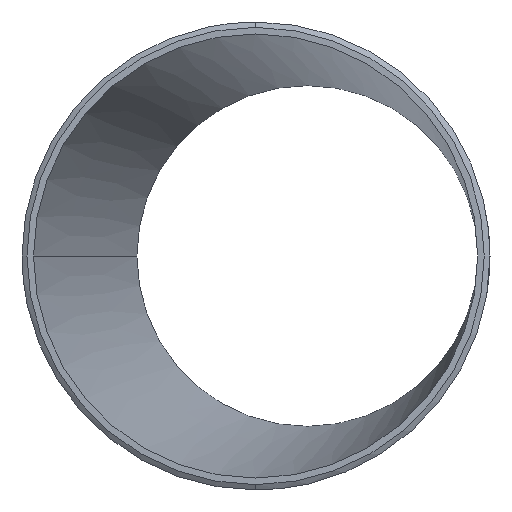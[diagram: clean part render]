
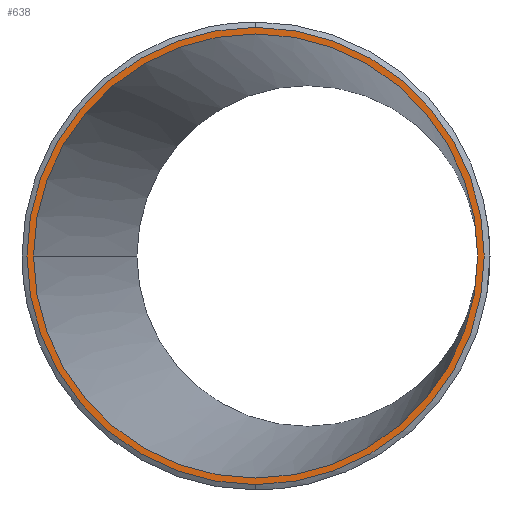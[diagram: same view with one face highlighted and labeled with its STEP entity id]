
A CAD part, left-side view. The second image highlights one B-rep face of the part: STEP entity #638.
In plain terms, the highlighted planar face has unit normal (-1, 0, 0).
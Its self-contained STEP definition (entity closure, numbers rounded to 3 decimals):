
#18 = DIRECTION ( 'NONE',  ( 1., 0., 0. ) ) ;
#38 = DIRECTION ( 'NONE',  ( 0., 0., -1. ) ) ;
#138 = CIRCLE ( 'NONE', #498, 55.75 ) ;
#235 = CARTESIAN_POINT ( 'NONE',  ( 0., 0., -55.75 ) ) ;
#284 = ORIENTED_EDGE ( 'NONE', *, *, #1522, .F. ) ;
#317 = DIRECTION ( 'NONE',  ( 0., 0., -1. ) ) ;
#322 = DIRECTION ( 'NONE',  ( 0., 0., -1. ) ) ;
#347 = DIRECTION ( 'NONE',  ( 1., 0., 0. ) ) ;
#393 = ORIENTED_EDGE ( 'NONE', *, *, #950, .T. ) ;
#498 = AXIS2_PLACEMENT_3D ( 'NONE', #1642, #1152, #1412 ) ;
#523 = EDGE_LOOP ( 'NONE', ( #799, #284 ) ) ;
#563 = VERTEX_POINT ( 'NONE', #1653 ) ;
#608 = DIRECTION ( 'NONE',  ( 0., 0., -1. ) ) ;
#638 = ADVANCED_FACE ( 'NONE', ( #949, #805 ), #1568, .F. ) ;
#652 = ORIENTED_EDGE ( 'NONE', *, *, #660, .T. ) ;
#660 = EDGE_CURVE ( 'NONE', #563, #1015, #814, .T. ) ;
#670 = AXIS2_PLACEMENT_3D ( 'NONE', #1332, #1053, #38 ) ;
#743 = DIRECTION ( 'NONE',  ( 1., 0., 0. ) ) ;
#799 = ORIENTED_EDGE ( 'NONE', *, *, #1251, .F. ) ;
#805 = FACE_OUTER_BOUND ( 'NONE', #523, .T. ) ;
#814 = CIRCLE ( 'NONE', #670, 54.15 ) ;
#908 = VERTEX_POINT ( 'NONE', #235 ) ;
#949 = FACE_BOUND ( 'NONE', #1058, .T. ) ;
#950 = EDGE_CURVE ( 'NONE', #1015, #563, #1330, .T. ) ;
#1015 = VERTEX_POINT ( 'NONE', #1261 ) ;
#1053 = DIRECTION ( 'NONE',  ( 1., 0., 0. ) ) ;
#1058 = EDGE_LOOP ( 'NONE', ( #652, #393 ) ) ;
#1089 = CARTESIAN_POINT ( 'NONE',  ( 0., 0., 0. ) ) ;
#1120 = CARTESIAN_POINT ( 'NONE',  ( 0., 0., 55.75 ) ) ;
#1152 = DIRECTION ( 'NONE',  ( 1., 0., 0. ) ) ;
#1165 = AXIS2_PLACEMENT_3D ( 'NONE', #1089, #347, #322 ) ;
#1251 = EDGE_CURVE ( 'NONE', #908, #1414, #138, .T. ) ;
#1261 = CARTESIAN_POINT ( 'NONE',  ( 0., -54.15, 0. ) ) ;
#1324 = CARTESIAN_POINT ( 'NONE',  ( 0., 0., 0. ) ) ;
#1330 = CIRCLE ( 'NONE', #1639, 54.15 ) ;
#1332 = CARTESIAN_POINT ( 'NONE',  ( 0., 0., 0. ) ) ;
#1355 = AXIS2_PLACEMENT_3D ( 'NONE', #1324, #18, #317 ) ;
#1386 = CARTESIAN_POINT ( 'NONE',  ( 0., 0., 0. ) ) ;
#1412 = DIRECTION ( 'NONE',  ( 0., 0., -1. ) ) ;
#1414 = VERTEX_POINT ( 'NONE', #1120 ) ;
#1522 = EDGE_CURVE ( 'NONE', #1414, #908, #1564, .T. ) ;
#1564 = CIRCLE ( 'NONE', #1165, 55.75 ) ;
#1568 = PLANE ( 'NONE',  #1355 ) ;
#1639 = AXIS2_PLACEMENT_3D ( 'NONE', #1386, #743, #608 ) ;
#1642 = CARTESIAN_POINT ( 'NONE',  ( 0., 0., 0. ) ) ;
#1653 = CARTESIAN_POINT ( 'NONE',  ( 0., 54.15, 0. ) ) ;
